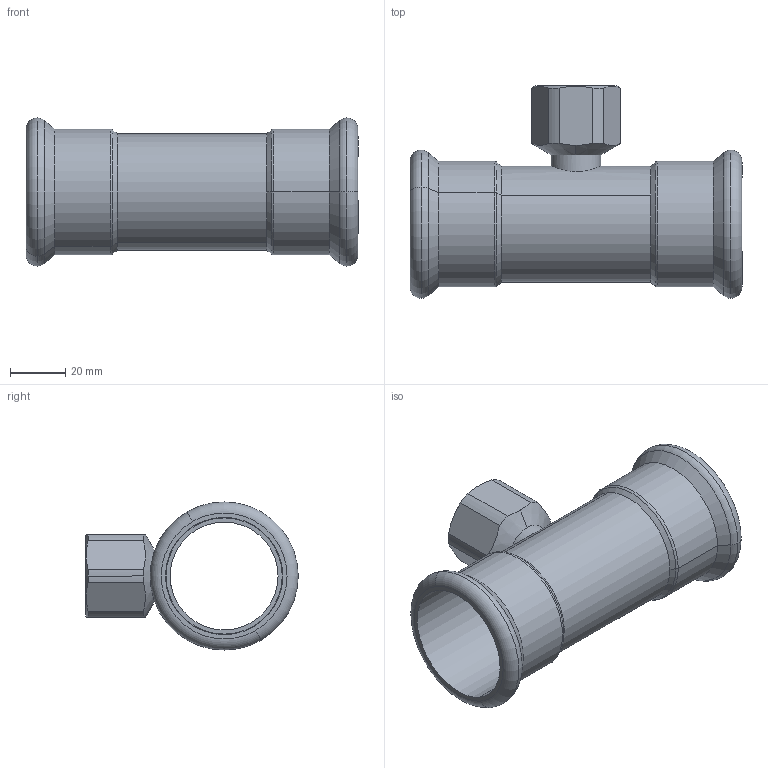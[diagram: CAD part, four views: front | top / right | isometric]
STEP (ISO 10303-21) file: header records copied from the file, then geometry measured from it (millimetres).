
FILE_DESCRIPTION(('CoCreate Modeling STEP Export'),'2;1');
FILE_NAME('C1418 42xRp3-4x42.stp','2014-11-12T15:05:40',(''),(''),'CoCreate Modeling STEP processor for AP214 (Solid Model)','CoCreate Modeling 17.00A 17-Jun-2010 (C) Parametric Technology GmbH','');
FILE_SCHEMA(('AUTOMOTIVE_DESIGN { 1 0 10303 214 1 1 1 1 }'));
Length unit declared in the file: millimetre
Products named in the file (2): C1418_42xRp3-4x42
Assembly tree (1 placements, depth 2):
  C1418_42xRp3-4x42
    C1418_42xRp3-4x42
Bounding box: 120 x 76.78 x 53.55 mm (x, y, z)
Volume: 40871 mm3; surface area: 39785.7 mm2
Topology: 1 solids, 1 shells, 68 faces, 162 edges, 101 vertices
Faces by surface type: cylinder 30, plane 14, torus 12, cone 12
Entity records: 3226 total; most frequent: CARTESIAN_POINT 1804, ORIENTED_EDGE 324, DIRECTION 242, EDGE_CURVE 162, VERTEX_POINT 101, AXIS2_PLACEMENT_3D 97, EDGE_LOOP 77, FACE_OUTER_BOUND 68
